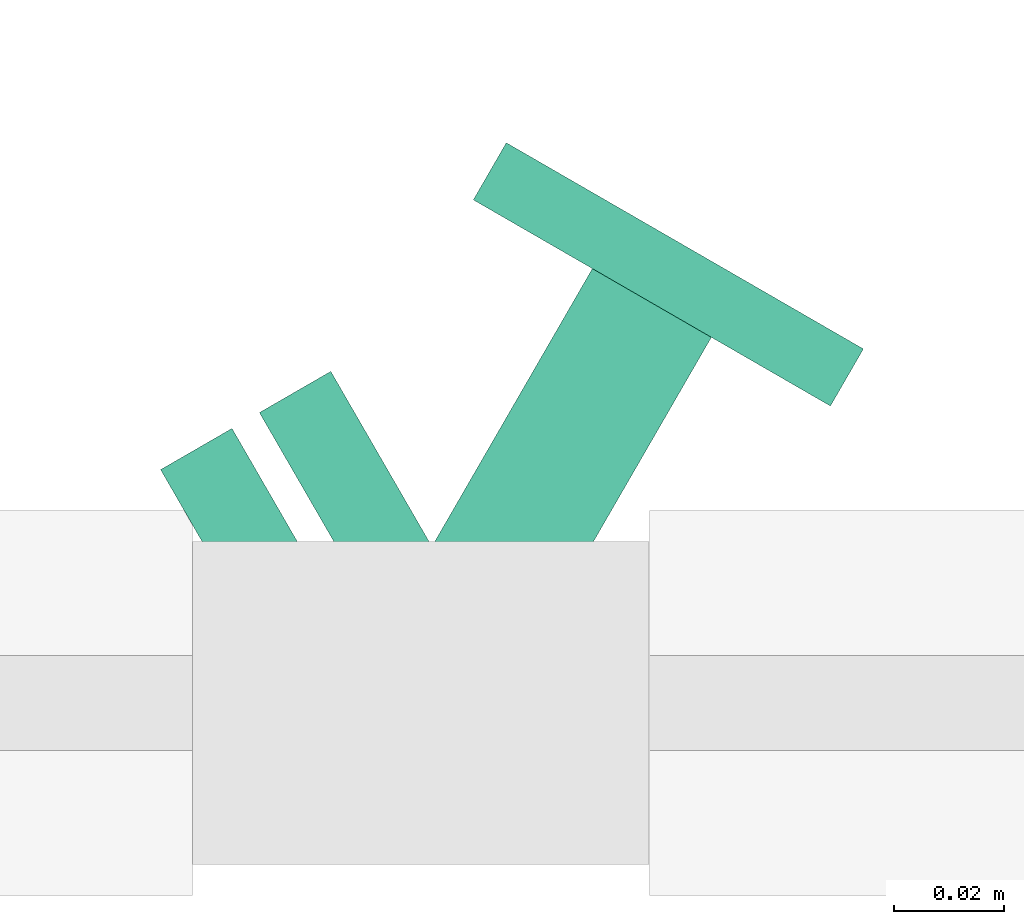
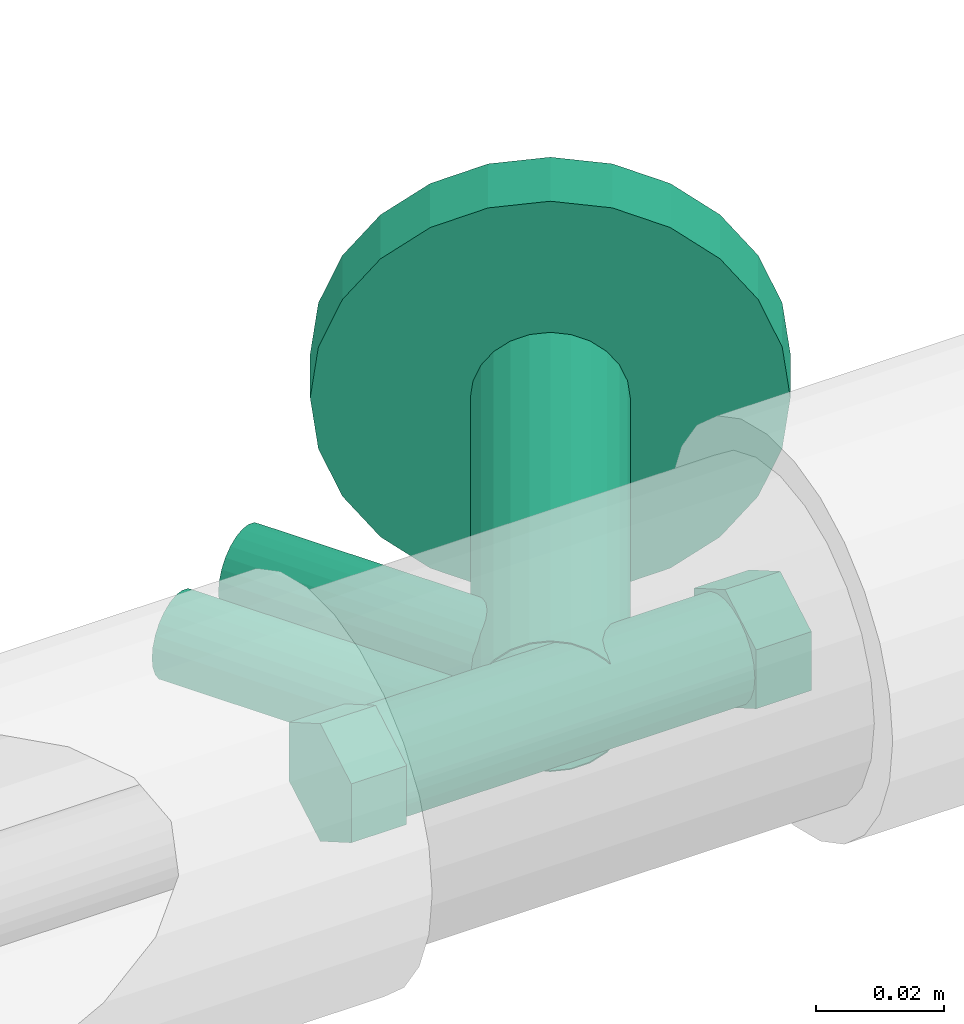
# One storey, part 76 of 83: 1 flow controller.
"""IFC2X3 building model written with IfcOpenShell, lengths in millimetres."""

from ifc_helpers import new_model, entity, si_unit, converted_unit, derived_unit, direction, frame, origin_with_axes, place, context, subcontext, project, spatial, open_shell, surface_model, source, transform, mapped, type_object, element, save


model = new_model("IFC2X3")

# Units and contexts
model_context = context("Model", 3, precision=0.01, world=frame((0.0, 4.29681676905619e-09, 0.0)), true_north=direction((4.01073788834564e-13, 1.0)))
plan_context = context("Plan", 3, precision=0.01, world=frame((0.0, 4.29681676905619e-09, 0.0)), true_north=direction((4.01073788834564e-13, 1.0)))
body_context = subcontext(model_context, "Body", "Model", "MODEL_VIEW")
ifc_project = project(units=[converted_unit("PLANEANGLEUNIT", "DEGREE", entity("IfcPositiveLengthMeasure", 0.0174532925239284), si_unit("PLANEANGLEUNIT", "RADIAN"), dimensions=[0, 0, 0, 0, 0, 0, 0]), si_unit("AREAUNIT", "SQUARE_METRE"), si_unit("LENGTHUNIT", "METRE", prefix="MILLI"), si_unit("MASSUNIT", "GRAM", prefix="KILO"), si_unit("POWERUNIT", "WATT"), si_unit("PRESSUREUNIT", "PASCAL"), si_unit("FORCEUNIT", "NEWTON", prefix="KILO"), si_unit("ELECTRICVOLTAGEUNIT", "VOLT"), si_unit("ELECTRICCURRENTUNIT", "AMPERE"), si_unit("THERMODYNAMICTEMPERATUREUNIT", "DEGREE_CELSIUS"), si_unit("TIMEUNIT", "SECOND"), si_unit("VOLUMEUNIT", "CUBIC_METRE"), derived_unit("LINEARVELOCITYUNIT", [(si_unit("LENGTHUNIT", "METRE"), 1), (si_unit("TIMEUNIT", "SECOND"), -1)]), derived_unit("VOLUMETRICFLOWRATEUNIT", [(si_unit("VOLUMEUNIT", "CUBIC_METRE"), 1), (si_unit("TIMEUNIT", "SECOND"), -1)]), derived_unit("THERMALTRANSMITTANCEUNIT", [(si_unit("POWERUNIT", "WATT"), 1), (si_unit("THERMODYNAMICTEMPERATUREUNIT", "KELVIN"), -1), (si_unit("AREAUNIT", "SQUARE_METRE"), -1)]), derived_unit("SOUNDPRESSUREUNIT", [(si_unit("PRESSUREUNIT", "PASCAL"), 1)])], contexts=[model_context, plan_context])

# Site, building, storey
site_placement = place(None, frame((0.0, -4.29681676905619e-09, 0.0), z_axis=(0.0, 0.0, 1.0), x_axis=(1.0, 0.0, 0.0)))
site = spatial("IfcSite", under=ifc_project, at=site_placement, Name="ENGM", CompositionType="ELEMENT")
building_placement = place(site_placement, frame((0.0, 4.29681676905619e-09, 0.0), z_axis=(0.0, 0.0, 1.0), x_axis=(1.0, 0.0, 0.0)))
building = spatial("IfcBuilding", under=site, at=building_placement, Name="TI", CompositionType="ELEMENT")
storey_placement = place(building_placement, frame((0.0, 0.0, 204000.0), z_axis=(0.0, 0.0, 1.0), x_axis=(1.0, 0.0, 0.0)))
storey = spatial("IfcBuildingStorey", under=building, at=storey_placement, Name="Nivå D", CompositionType="ELEMENT", Elevation=204000.0)

# Flow controller
valve_type = type_object("IfcValveType", Name="STAD/F-10/09", PredefinedType="NOTDEFINED")
shared_shape = source(origin_with_axes(), body_context, "Body", "SurfaceModel", [
    surface_model("IfcShellBasedSurfaceModel", [(5.41266, -10.82532, 3.125), (7.65466, -8.83883, 4.41942), (5.32606, -10.65211, 3.075), (2.75697, -11.88089, 1.59174), (0.0, -12.3, 0.0), (2.8018, -12.07407, 1.61762), (0.0, -12.5, 0.0), (7.53218, -8.69741, 4.34871), (10.45645, -3.23524, 6.03704), (10.65211, 0.0, 6.15), (10.28915, -3.18347, 5.94044), (10.82532, 0.0, 6.25), (9.375, -6.25, 5.41266), (9.225, -6.15, 5.32606), (-2.75697, -11.88089, -1.59174), (-2.8018, -12.07407, -1.61762), (-5.32606, -10.65211, -3.075), (-7.65466, -8.83883, -4.41942), (-5.41266, -10.82532, -3.125), (-7.53218, -8.69741, -4.34871), (-9.225, -6.15, -5.32606), (-9.375, -6.25, -5.41266), (-10.28915, -3.18347, -5.94044), (-10.45645, -3.23524, -6.03704), (-10.65211, 0.0, -6.15), (-10.82532, 0.0, -6.25), (10.45645, 3.23524, 6.03704), (10.28915, 3.18347, 5.94044), (9.225, 6.15, 5.32606), (9.375, 6.25, 5.41266), (7.53218, 8.69741, 4.34871), (7.65466, 8.83883, 4.41942), (5.41266, 10.82532, 3.125), (5.32606, 10.65211, 3.075), (2.75697, 11.88089, 1.59174), (2.8018, 12.07407, 1.61762), (0.0, 12.3, 0.0), (0.0, 12.5, 0.0), (-9.375, 6.25, -5.41266), (-9.225, 6.15, -5.32606), (-7.65466, 8.83883, -4.41942), (-7.53218, 8.69741, -4.34871), (-10.45645, 3.23524, -6.03704), (-10.28915, 3.18347, -5.94044), (-2.75697, 11.88089, -1.59174), (-2.8018, 12.07407, -1.61762), (-5.32606, 10.65211, -3.075), (-5.41266, 10.82532, -3.125), (41.5, 11.22, 0.0), (41.5, 5.61, 9.71681), (41.5, 5.61, -9.71681), (41.5, -11.22, 0.0), (41.5, -5.61, -9.71681), (41.5, -5.61, 9.71681), (31.5, -5.61, -9.71681), (31.5, -11.22, 0.0), (31.5, 5.61, -9.71681), (31.5, 5.61, 9.71681), (31.5, -5.61, 9.71681), (31.5, 11.22, 0.0), (-41.5, -11.22, 0.0), (-41.5, -5.61, 9.71681), (-41.5, -5.61, -9.71681), (-41.5, 11.22, 0.0), (-41.5, 5.61, -9.71681), (-41.5, 5.61, 9.71681), (-31.5, 5.61, -9.71681), (-31.5, 11.22, 0.0), (-31.5, -5.61, -9.71681), (-31.5, -5.61, 9.71681), (-31.5, 5.61, 9.71681), (-31.5, -11.22, 0.0), (64.23797, 32.47595, -73.76344), (31.76202, 32.47595, -92.51344), (56.40539, 36.22222, -78.28558), (80.47595, 0.0, -64.38844), (70.96396, 26.5165, -69.88019), (76.125, 18.75, -66.90047), (79.36936, 9.70571, -65.02734), (48.0, 37.5, -83.13844), (39.5946, 36.22222, -87.9913), (25.03603, 26.5165, -96.3967), (16.63063, 9.70571, -101.24955), (19.875, 18.75, -99.37642), (16.63063, -9.70571, -101.24955), (76.125, -18.75, -66.90047), (70.96396, -26.5165, -69.88019), (48.0, -37.5, -83.13844), (56.40539, -36.22222, -78.28558), (64.23797, -32.47595, -73.76344), (25.03603, -26.5165, -96.3967), (19.875, -18.75, -99.37642), (15.52404, 0.0, -101.88844), (31.76202, -32.47595, -92.51344), (39.5946, -36.22222, -87.9913), (79.36936, -9.70571, -65.02734), (42.0, -37.5, -72.74614), (50.40539, -36.22222, -67.89328), (58.23797, -32.47595, -63.37114), (33.5946, -36.22222, -77.599), (64.96396, -26.5165, -59.48788), (70.125, -18.75, -56.50816), (73.36936, -9.70571, -54.63503), (10.63063, 9.70571, -90.85724), (10.63063, -9.70571, -90.85724), (25.76202, -32.47595, -82.12113), (13.875, -18.75, -88.98411), (19.03603, -26.5165, -86.00439), (9.52404, 0.0, -91.49613), (74.47595, 0.0, -53.99614), (73.36936, 9.70571, -54.63503), (70.125, 18.75, -56.50816), (58.23797, 32.47595, -63.37114), (64.96396, 26.5165, -59.48788), (50.40539, 36.22222, -67.89328), (25.76202, 32.47595, -82.12113), (19.03603, 26.5165, -86.00439), (13.875, 18.75, -88.98411), (42.0, 37.5, -72.74614), (33.5946, 36.22222, -77.599), (31.5, 2.41996, -9.03141), (31.5, 4.675, -8.09734), (31.5, 6.61145, -6.61145), (31.5, 8.09734, -4.675), (31.5, 9.03141, -2.41996), (31.5, -9.35, 0.0), (31.5, -9.03141, -2.41996), (31.5, 0.0, -9.35), (31.5, -4.675, -8.09734), (31.5, -2.41996, -9.03141), (31.5, -8.09734, -4.675), (31.5, -6.61145, -6.61145), (31.5, 9.35, 0.0), (31.5, -2.41996, 9.03141), (31.5, 8.09734, 4.675), (31.5, 6.61145, 6.61145), (31.5, 4.675, 8.09734), (31.5, 2.41996, 9.03141), (31.5, 0.0, 9.35), (31.5, -8.09734, 4.675), (31.5, -9.03141, 2.41996), (31.5, -6.61145, 6.61145), (31.5, -4.675, 8.09734), (31.5, 9.03141, 2.41996), (-31.5, 0.0, 9.35), (-31.5, 2.41996, 9.03141), (-31.5, 4.675, 8.09734), (-31.5, 6.61145, 6.61145), (-31.5, -2.41996, 9.03141), (-31.5, 8.09734, 4.675), (-31.5, -9.03141, -2.41996), (-31.5, -8.09734, 4.675), (-31.5, -6.61145, 6.61145), (-31.5, -4.675, 8.09734), (-31.5, -9.35, 0.0), (-31.5, -9.03141, 2.41996), (-31.5, 2.41996, -9.03141), (-31.5, 9.03141, 2.41996), (-31.5, 9.03141, -2.41996), (-31.5, 8.09734, -4.675), (-31.5, 6.61145, -6.61145), (-31.5, 4.675, -8.09734), (-31.5, -8.09734, -4.675), (-31.5, -4.675, -8.09734), (-31.5, -6.61145, -6.61145), (-31.5, 0.0, -9.35), (-31.5, -2.41996, -9.03141), (-31.5, 9.35, 0.0), (-21.20408, 7.24444, -57.53082), (-19.63757, 6.49519, -58.43525), (-18.29237, 5.3033, -59.2119), (-16.38997, 0.0, -60.31024), (-17.26016, 3.75, -59.80784), (-16.61129, 1.94114, -60.18247), (-28.51016, 3.75, -53.31265), (-24.56624, 7.24444, -55.58968), (-27.47796, 5.3033, -53.9086), (-26.13276, 6.49519, -54.68525), (-22.88516, 7.5, -56.56025), (-29.38035, 0.0, -52.81025), (-29.15903, 1.94114, -52.93803), (-17.26016, -3.75, -59.80784), (-19.63757, -6.49519, -58.43525), (-18.29237, -5.3033, -59.2119), (-21.20408, -7.24444, -57.53082), (-22.88516, -7.5, -56.56025), (-28.51016, -3.75, -53.31265), (-29.15903, -1.94114, -52.93803), (-27.47796, -5.3033, -53.9086), (-24.56624, -7.24444, -55.58968), (-26.13276, -6.49519, -54.68525), (-16.61129, -1.94114, -60.18247), (8.29591, -7.24444, -6.43532), (2.02204, -5.3033, -2.8131), (6.61484, -7.5, -5.46475), (11.20763, -5.3033, -8.1164), (9.86243, -6.49519, -7.33975), (12.23984, -3.75, -8.71234), (12.88871, 1.94114, -9.08697), (4.93376, -7.24444, -4.49417), (3.36724, -6.49519, -3.58975), (0.34096, 1.94114, -1.84252), (0.98984, -3.75, -2.21715), (0.34096, -1.94114, -1.84252), (0.11965, 0.0, -1.71475), (12.88871, -1.94114, -9.08697), (13.11003, 0.0, -9.21475), (11.20763, 5.3033, -8.1164), (12.23984, 3.75, -8.71234), (9.86243, 6.49519, -7.33975), (8.29591, 7.24444, -6.43532), (3.36724, 6.49519, -3.58975), (2.02204, 5.3033, -2.8131), (0.98984, 3.75, -2.21715), (6.61484, 7.5, -5.46475), (4.93376, 7.24444, -4.49417), (-35.23019, 3.75, -49.43284), (-39.17411, 7.24444, -47.15582), (-37.60759, 6.49519, -48.06025), (-36.26239, 5.3033, -48.83689), (-34.58132, 1.94114, -49.80747), (-46.48019, 3.75, -42.93765), (-34.58132, -1.94114, -49.80747), (-40.85519, 7.5, -46.18524), (-44.10279, 6.49519, -44.31025), (-42.53627, 7.24444, -45.21467), (-45.44798, 5.3033, -43.5336), (-47.35038, 0.0, -42.43525), (-47.12906, 1.94114, -42.56303), (-34.36, 0.0, -49.93525), (-44.10279, -6.49519, -44.31025), (-35.23019, -3.75, -49.43284), (-40.85519, -7.5, -46.18524), (-36.26239, -5.3033, -48.83689), (-39.17411, -7.24444, -47.15582), (-37.60759, -6.49519, -48.06025), (-46.48019, -3.75, -42.93765), (-47.12906, -1.94114, -42.56303), (-45.44798, -5.3033, -43.5336), (-42.53627, -7.24444, -45.21467), (-14.67411, -7.24444, -4.72057), (-20.94798, -5.3033, -1.09835), (-16.35519, -7.5, -3.75), (-11.7624, -5.3033, -6.40165), (-13.10759, -6.49519, -5.625), (-10.73019, -3.75, -6.9976), (-10.08132, -1.94114, -7.37222), (-18.03627, -7.24444, -2.77943), (-19.60279, -6.49519, -1.875), (-21.98019, -3.75, -0.50241), (-22.62906, -1.94114, -0.12778), (-21.98019, 3.75, -0.50241), (-22.85038, 0.0, 0.0), (-10.08132, 1.94114, -7.37222), (-11.7624, 5.3033, -6.40165), (-10.73019, 3.75, -6.9976), (-13.10759, 6.49519, -5.625), (-14.67411, 7.24444, -4.72057), (-19.60279, 6.49519, -1.875), (-20.94798, 5.3033, -1.09835), (-22.62906, 1.94114, -0.12778), (-16.35519, 7.5, -3.75), (-18.03627, 7.24444, -2.77943), (-9.86, 0.0, -7.5), (47.41265, 10.82532, -69.62114), (49.65465, 8.83883, -68.32672), (47.32605, 10.65211, -69.67114), (44.75697, 11.88089, -71.1544), (42.0, 12.3, -72.74614), (44.80179, 12.07407, -71.12852), (42.0, 12.5, -72.74614), (49.53218, 8.69741, -68.39743), (52.45645, 3.23524, -66.7091), (52.65211, 0.0, -66.59613), (52.28915, 3.18347, -66.80569), (52.82531, 0.0, -66.49614), (51.375, 6.25, -67.33348), (51.225, 6.15, -67.42008), (39.24303, 11.88089, -74.33787), (39.1982, 12.07407, -74.36376), (36.67394, 10.65211, -75.82114), (34.34534, 8.83883, -77.16556), (36.58734, 10.82532, -75.87114), (34.46782, 8.69741, -77.09484), (32.775, 6.15, -78.07219), (32.625, 6.25, -78.15879), (31.71085, 3.18347, -78.68658), (31.54354, 3.23524, -78.78317), (31.34788, 0.0, -78.89614), (31.17468, 0.0, -78.99613), (52.45645, -3.23524, -66.7091), (52.28915, -3.18347, -66.80569), (51.225, -6.15, -67.42008), (51.375, -6.25, -67.33348), (49.53218, -8.69741, -68.39743), (49.65465, -8.83883, -68.32672), (47.41265, -10.82532, -69.62114), (47.32605, -10.65211, -69.67114), (44.75697, -11.88089, -71.1544), (44.80179, -12.07407, -71.12852), (42.0, -12.3, -72.74614), (42.0, -12.5, -72.74614), (32.625, -6.25, -78.15879), (32.775, -6.15, -78.07219), (34.34534, -8.83883, -77.16556), (34.46782, -8.69741, -77.09484), (31.54354, -3.23524, -78.78317), (31.71085, -3.18347, -78.68658), (39.24303, -11.88089, -74.33787), (39.1982, -12.07407, -74.36376), (36.67394, -10.65211, -75.82114), (36.58734, -10.82532, -75.87114)], [open_shell([[[0, 1, 2]], [[0, 2, 3]], [[4, 5, 3]], [[5, 4, 6]], [[3, 5, 0]], [[2, 1, 7]], [[8, 9, 10]], [[9, 8, 11]], [[8, 10, 12]], [[7, 12, 13]], [[12, 7, 1]], [[13, 12, 10]], [[6, 14, 15]], [[15, 14, 16]], [[17, 18, 19]], [[16, 18, 15]], [[16, 19, 18]], [[6, 4, 14]], [[20, 21, 17]], [[21, 20, 22]], [[20, 17, 19]], [[23, 22, 24]], [[22, 23, 21]], [[23, 24, 25]], [[11, 26, 27]], [[27, 26, 28]], [[28, 29, 30]], [[29, 28, 26]], [[30, 29, 31]], [[31, 32, 33]], [[33, 32, 34]], [[34, 35, 36]], [[35, 34, 32]], [[36, 35, 37]], [[33, 30, 31]], [[38, 39, 40]], [[40, 39, 41]], [[39, 38, 42]], [[25, 43, 42]], [[42, 43, 39]], [[25, 24, 43]], [[44, 37, 45]], [[44, 45, 46]], [[41, 47, 40]], [[41, 46, 47]], [[47, 46, 45]], [[36, 37, 44]], [[27, 9, 11]], [[48, 49, 50]], [[50, 49, 51]], [[50, 51, 52]], [[51, 49, 53]], [[54, 55, 56]], [[57, 55, 58]], [[57, 59, 56]], [[57, 56, 55]], [[53, 49, 58]], [[57, 58, 49]], [[51, 53, 58]], [[58, 55, 51]], [[52, 51, 55]], [[55, 54, 52]], [[50, 52, 54]], [[54, 56, 50]], [[48, 50, 56]], [[56, 59, 48]], [[49, 48, 57]], [[59, 57, 48]], [[60, 61, 62]], [[62, 61, 63]], [[62, 63, 64]], [[63, 61, 65]], [[66, 67, 68]], [[69, 67, 70]], [[69, 71, 68]], [[69, 68, 67]], [[65, 61, 70]], [[69, 70, 61]], [[63, 65, 70]], [[70, 67, 63]], [[64, 63, 67]], [[67, 66, 64]], [[62, 64, 66]], [[66, 68, 62]], [[60, 62, 68]], [[68, 71, 60]], [[61, 60, 69]], [[71, 69, 60]], [[72, 73, 74]], [[75, 72, 76]], [[77, 78, 75]], [[77, 75, 76]], [[73, 72, 75]], [[79, 73, 80]], [[79, 74, 73]], [[81, 82, 83]], [[82, 81, 73]], [[73, 84, 82]], [[73, 75, 84]], [[85, 86, 75]], [[86, 87, 75]], [[88, 87, 86]], [[88, 86, 89]], [[75, 87, 90]], [[84, 90, 91]], [[92, 82, 84]], [[87, 93, 90]], [[84, 75, 90]], [[93, 87, 94]], [[75, 95, 85]], [[96, 97, 98]], [[99, 96, 98]], [[100, 101, 102]], [[99, 98, 100]], [[100, 103, 104]], [[105, 106, 107]], [[106, 105, 99]], [[99, 104, 106]], [[99, 100, 104]], [[104, 103, 108]], [[100, 102, 109]], [[109, 110, 111]], [[103, 109, 111]], [[111, 112, 103]], [[112, 111, 113]], [[114, 115, 112]], [[103, 116, 117]], [[116, 103, 115]], [[115, 118, 119]], [[115, 103, 112]], [[114, 118, 115]], [[109, 103, 100]], [[103, 82, 108]], [[117, 83, 103]], [[73, 116, 115]], [[117, 116, 81]], [[80, 115, 119]], [[103, 83, 82]], [[82, 92, 108]], [[80, 73, 115]], [[81, 116, 73]], [[81, 83, 117]], [[79, 80, 119]], [[119, 118, 79]], [[114, 74, 118]], [[112, 72, 114]], [[77, 113, 111]], [[112, 113, 76]], [[78, 111, 110]], [[112, 76, 72]], [[72, 74, 114]], [[75, 78, 110]], [[77, 111, 78]], [[77, 76, 113]], [[109, 75, 110]], [[118, 74, 79]], [[102, 95, 109]], [[101, 85, 102]], [[89, 100, 98]], [[101, 100, 86]], [[88, 98, 97]], [[102, 85, 95]], [[95, 75, 109]], [[88, 89, 98]], [[86, 100, 89]], [[86, 85, 101]], [[87, 88, 97]], [[97, 96, 87]], [[99, 94, 96]], [[105, 93, 99]], [[91, 107, 106]], [[105, 107, 90]], [[84, 106, 104]], [[105, 90, 93]], [[93, 94, 99]], [[92, 84, 104]], [[91, 106, 84]], [[91, 90, 107]], [[108, 92, 104]], [[96, 94, 87]], [[120, 121, 122]], [[120, 122, 123]], [[120, 124, 125]], [[124, 120, 123]], [[126, 120, 125]], [[127, 128, 129]], [[127, 120, 128]], [[128, 130, 131]], [[128, 120, 130]], [[126, 130, 120]], [[125, 124, 132]], [[133, 132, 134]], [[135, 133, 134]], [[136, 137, 138]], [[136, 138, 135]], [[138, 133, 135]], [[125, 139, 140]], [[132, 139, 125]], [[141, 133, 142]], [[133, 141, 139]], [[133, 139, 132]], [[143, 134, 132]], [[144, 145, 146]], [[144, 146, 147]], [[148, 147, 149]], [[147, 148, 144]], [[150, 151, 149]], [[148, 152, 153]], [[152, 148, 151]], [[151, 154, 155]], [[151, 148, 149]], [[151, 150, 154]], [[156, 149, 157]], [[157, 158, 156]], [[156, 158, 159]], [[160, 161, 156]], [[160, 156, 159]], [[156, 150, 149]], [[162, 163, 164]], [[165, 162, 150]], [[163, 165, 166]], [[165, 163, 162]], [[150, 156, 165]], [[157, 167, 158]], [[150, 126, 154]], [[162, 130, 150]], [[128, 164, 163]], [[162, 164, 131]], [[129, 163, 166]], [[150, 130, 126]], [[126, 125, 154]], [[129, 128, 163]], [[131, 164, 128]], [[131, 130, 162]], [[127, 129, 166]], [[166, 165, 127]], [[156, 120, 165]], [[161, 121, 156]], [[123, 160, 159]], [[161, 160, 122]], [[124, 159, 158]], [[161, 122, 121]], [[121, 120, 156]], [[132, 124, 158]], [[123, 159, 124]], [[123, 122, 160]], [[167, 132, 158]], [[165, 120, 127]], [[157, 143, 167]], [[149, 134, 157]], [[136, 147, 146]], [[149, 147, 135]], [[137, 146, 145]], [[157, 134, 143]], [[143, 132, 167]], [[135, 147, 136]], [[134, 149, 135]], [[146, 137, 136]], [[145, 138, 137]], [[145, 144, 138]], [[148, 133, 144]], [[153, 142, 148]], [[139, 152, 151]], [[153, 152, 141]], [[140, 151, 155]], [[153, 141, 142]], [[142, 133, 148]], [[125, 140, 155]], [[139, 151, 140]], [[139, 141, 152]], [[154, 125, 155]], [[144, 133, 138]], [[168, 169, 170]], [[168, 170, 171]], [[172, 173, 171]], [[172, 171, 170]], [[168, 171, 174]], [[175, 176, 177]], [[176, 175, 178]], [[168, 176, 178]], [[168, 174, 176]], [[174, 179, 180]], [[174, 171, 179]], [[171, 181, 182]], [[182, 181, 183]], [[182, 184, 185]], [[182, 179, 171]], [[185, 179, 182]], [[179, 186, 187]], [[186, 179, 188]], [[188, 189, 190]], [[188, 179, 185]], [[185, 189, 188]], [[181, 171, 191]], [[192, 193, 194]], [[195, 192, 196]], [[193, 192, 197]], [[197, 192, 195]], [[198, 193, 197]], [[199, 193, 200]], [[199, 194, 193]], [[193, 201, 202]], [[201, 203, 202]], [[203, 201, 204]], [[197, 205, 206]], [[201, 193, 198]], [[207, 198, 208]], [[207, 209, 210]], [[207, 210, 198]], [[211, 198, 210]], [[201, 212, 213]], [[212, 201, 211]], [[211, 214, 215]], [[211, 201, 198]], [[210, 214, 211]], [[198, 197, 206]], [[201, 180, 204]], [[213, 174, 201]], [[177, 212, 211]], [[213, 212, 176]], [[175, 211, 215]], [[201, 174, 180]], [[180, 179, 204]], [[175, 177, 211]], [[176, 212, 177]], [[176, 174, 213]], [[178, 175, 215]], [[215, 214, 178]], [[210, 168, 214]], [[209, 169, 210]], [[172, 207, 208]], [[209, 207, 170]], [[173, 208, 198]], [[209, 170, 169]], [[169, 168, 210]], [[171, 173, 198]], [[172, 208, 173]], [[172, 170, 207]], [[206, 171, 198]], [[214, 168, 178]], [[205, 191, 206]], [[197, 181, 205]], [[182, 195, 196]], [[197, 195, 183]], [[184, 196, 192]], [[205, 181, 191]], [[191, 171, 206]], [[195, 182, 183]], [[183, 181, 197]], [[196, 184, 182]], [[192, 185, 184]], [[192, 194, 185]], [[199, 189, 194]], [[200, 190, 199]], [[186, 193, 202]], [[200, 193, 188]], [[187, 202, 203]], [[189, 199, 190]], [[190, 200, 188]], [[179, 187, 203]], [[186, 202, 187]], [[186, 188, 193]], [[204, 179, 203]], [[194, 189, 185]], [[216, 217, 218]], [[216, 218, 219]], [[217, 220, 221]], [[220, 217, 216]], [[222, 221, 220]], [[223, 224, 225]], [[224, 223, 221]], [[224, 221, 226]], [[223, 217, 221]], [[221, 227, 228]], [[222, 220, 229]], [[230, 221, 231]], [[232, 231, 233]], [[234, 232, 233]], [[234, 233, 235]], [[230, 231, 232]], [[227, 236, 237]], [[236, 227, 230]], [[236, 230, 238]], [[221, 230, 227]], [[232, 239, 230]], [[221, 222, 231]], [[240, 241, 242]], [[243, 240, 244]], [[243, 245, 246]], [[243, 246, 240]], [[241, 240, 246]], [[247, 241, 248]], [[247, 242, 241]], [[246, 249, 241]], [[250, 249, 246]], [[250, 251, 252]], [[250, 246, 253]], [[250, 253, 251]], [[254, 253, 255]], [[254, 256, 257]], [[254, 257, 253]], [[251, 253, 257]], [[251, 258, 259]], [[260, 252, 251]], [[258, 261, 262]], [[251, 257, 258]], [[257, 261, 258]], [[253, 246, 263]], [[260, 228, 252]], [[251, 221, 260]], [[224, 259, 258]], [[251, 259, 226]], [[225, 258, 262]], [[260, 221, 228]], [[228, 227, 252]], [[225, 224, 258]], [[226, 259, 224]], [[226, 221, 251]], [[223, 225, 262]], [[262, 261, 223]], [[257, 217, 261]], [[256, 218, 257]], [[216, 254, 255]], [[256, 254, 219]], [[220, 255, 253]], [[256, 219, 218]], [[218, 217, 257]], [[229, 220, 253]], [[216, 255, 220]], [[216, 219, 254]], [[263, 229, 253]], [[261, 217, 223]], [[246, 222, 263]], [[245, 231, 246]], [[235, 243, 244]], [[245, 243, 233]], [[234, 244, 240]], [[246, 231, 222]], [[222, 229, 263]], [[234, 235, 244]], [[233, 243, 235]], [[233, 231, 245]], [[232, 234, 240]], [[240, 242, 232]], [[247, 239, 242]], [[248, 230, 247]], [[236, 241, 249]], [[248, 241, 238]], [[237, 249, 250]], [[248, 238, 230]], [[230, 239, 247]], [[227, 237, 250]], [[236, 249, 237]], [[236, 238, 241]], [[252, 227, 250]], [[242, 239, 232]], [[264, 265, 266]], [[264, 266, 267]], [[268, 269, 267]], [[269, 268, 270]], [[267, 269, 264]], [[266, 265, 271]], [[272, 273, 274]], [[273, 272, 275]], [[272, 274, 276]], [[271, 276, 277]], [[276, 271, 265]], [[277, 276, 274]], [[270, 278, 279]], [[279, 278, 280]], [[281, 282, 283]], [[280, 282, 279]], [[280, 283, 282]], [[270, 268, 278]], [[284, 285, 281]], [[285, 284, 286]], [[284, 281, 283]], [[287, 286, 288]], [[286, 287, 285]], [[287, 288, 289]], [[275, 290, 291]], [[291, 290, 292]], [[292, 293, 294]], [[293, 292, 290]], [[294, 293, 295]], [[295, 296, 297]], [[297, 296, 298]], [[298, 299, 300]], [[299, 298, 296]], [[300, 299, 301]], [[297, 294, 295]], [[302, 303, 304]], [[304, 303, 305]], [[303, 302, 306]], [[289, 307, 306]], [[306, 307, 303]], [[289, 288, 307]], [[308, 301, 309]], [[308, 309, 310]], [[305, 311, 304]], [[305, 310, 311]], [[311, 310, 309]], [[300, 301, 308]], [[291, 273, 275]], [[42, 287, 25]], [[38, 285, 42]], [[282, 40, 47]], [[38, 40, 281]], [[279, 47, 45]], [[42, 285, 287]], [[287, 289, 25]], [[279, 282, 47]], [[281, 40, 282]], [[281, 285, 38]], [[270, 279, 45]], [[45, 37, 270]], [[35, 269, 37]], [[32, 264, 35]], [[276, 31, 29]], [[32, 31, 265]], [[272, 29, 26]], [[32, 265, 264]], [[264, 269, 35]], [[275, 272, 26]], [[276, 29, 272]], [[276, 265, 31]], [[11, 275, 26]], [[37, 269, 270]], [[8, 290, 11]], [[12, 293, 8]], [[296, 1, 0]], [[12, 1, 295]], [[299, 0, 5]], [[11, 290, 275]], [[8, 293, 290]], [[1, 296, 295]], [[12, 295, 293]], [[0, 299, 296]], [[5, 301, 299]], [[5, 6, 301]], [[15, 309, 6]], [[18, 311, 15]], [[302, 17, 21]], [[18, 17, 304]], [[302, 21, 23]], [[309, 15, 311]], [[311, 18, 304]], [[25, 289, 306]], [[302, 23, 306]], [[302, 304, 17]], [[23, 25, 306]], [[6, 309, 301]], [[24, 286, 43]], [[43, 284, 39]], [[46, 41, 280]], [[283, 41, 39]], [[44, 46, 278]], [[288, 286, 24]], [[286, 284, 43]], [[44, 278, 268]], [[283, 39, 284]], [[280, 41, 283]], [[280, 278, 46]], [[268, 36, 44]], [[30, 33, 266]], [[27, 28, 277]], [[271, 28, 30]], [[9, 27, 274]], [[267, 266, 34]], [[266, 33, 34]], [[34, 268, 267]], [[271, 30, 266]], [[277, 28, 271]], [[27, 277, 274]], [[274, 273, 9]], [[36, 268, 34]], [[9, 291, 10]], [[10, 292, 13]], [[2, 7, 297]], [[294, 7, 13]], [[3, 2, 298]], [[273, 291, 9]], [[291, 292, 10]], [[298, 300, 4]], [[294, 13, 292]], [[2, 297, 298]], [[294, 297, 7]], [[4, 3, 298]], [[16, 14, 310]], [[16, 310, 19]], [[22, 20, 303]], [[305, 20, 19]], [[24, 22, 307]], [[4, 308, 14]], [[308, 310, 14]], [[300, 308, 4]], [[310, 305, 19]], [[303, 20, 305]], [[307, 22, 303]], [[307, 288, 24]]])]),
])
flow_controller_placement = place(storey_placement, frame((609437.32456, 698292.0, 5915.20000000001), z_axis=(0.0, -1.0, 0.0), x_axis=(1.0, 0.0, 0.0)))
element("IfcFlowController", 1, at=flow_controller_placement, inside=storey, type_object=valve_type, Name="STAD/F-10/09", context=body_context, shape_type="MappedRepresentation", body=[
    mapped(shared_shape, transform((0.0, 0.0, 0.0), scale=1.0)),
])

save(model, "model.ifc")
